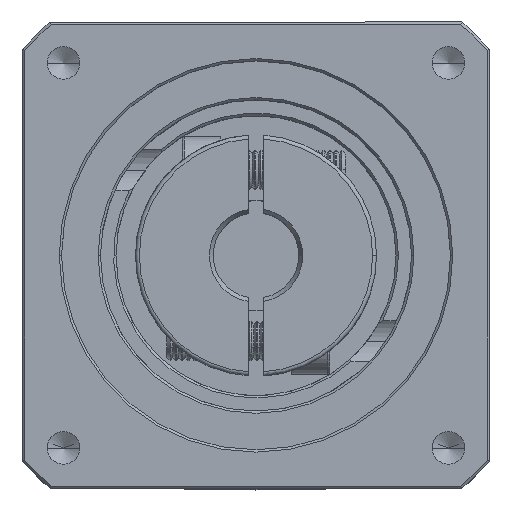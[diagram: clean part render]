
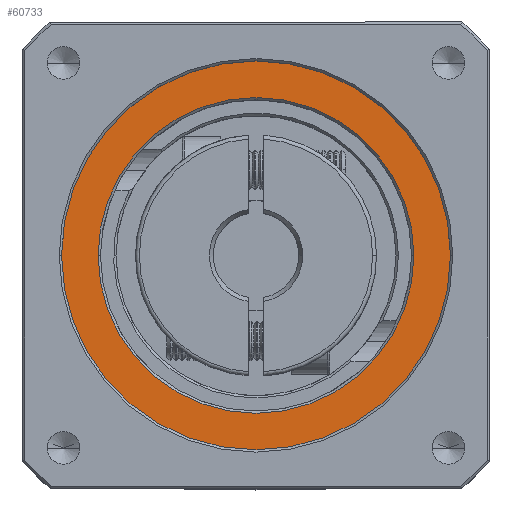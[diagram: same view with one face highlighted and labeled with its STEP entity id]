
A CAD part, top view. The second image highlights one B-rep face of the part: STEP entity #60733.
In plain terms, the highlighted planar face has unit normal (0, 0, 1).
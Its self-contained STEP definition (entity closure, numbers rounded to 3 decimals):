
#3568 = CARTESIAN_POINT ( 'NONE',  ( -70.553, 17.545, 33.731 ) ) ;
#6025 = DIRECTION ( 'NONE',  ( 1., 0., 0. ) ) ;
#9074 = ORIENTED_EDGE ( 'NONE', *, *, #82326, .T. ) ;
#11191 = DIRECTION ( 'NONE',  ( 1., 0., 0. ) ) ;
#12839 = CARTESIAN_POINT ( 'NONE',  ( -95.553, 17.545, 33.731 ) ) ;
#15806 = CARTESIAN_POINT ( 'NONE',  ( -45.553, 17.545, 33.731 ) ) ;
#18366 = CARTESIAN_POINT ( 'NONE',  ( -70.553, 17.545, 33.731 ) ) ;
#19945 = VERTEX_POINT ( 'NONE', #12839 ) ;
#21176 = DIRECTION ( 'NONE',  ( 0., 0., -1. ) ) ;
#25885 = DIRECTION ( 'NONE',  ( 1., 0., 0. ) ) ;
#26813 = AXIS2_PLACEMENT_3D ( 'NONE', #3568, #56317, #11191 ) ;
#31488 = CARTESIAN_POINT ( 'NONE',  ( -70.553, 17.545, 33.731 ) ) ;
#31945 = CIRCLE ( 'NONE', #90643, 25. ) ;
#33008 = ORIENTED_EDGE ( 'NONE', *, *, #46829, .T. ) ;
#33996 = EDGE_LOOP ( 'NONE', ( #33008, #78915 ) ) ;
#38791 = CIRCLE ( 'NONE', #26813, 25. ) ;
#39076 = DIRECTION ( 'NONE',  ( 1., 0., 0. ) ) ;
#40020 = EDGE_LOOP ( 'NONE', ( #9074, #59018 ) ) ;
#46340 = PLANE ( 'NONE',  #62634 ) ;
#46829 = EDGE_CURVE ( 'NONE', #59975, #19945, #38791, .T. ) ;
#49567 = EDGE_CURVE ( 'NONE', #19945, #59975, #31945, .T. ) ;
#51160 = DIRECTION ( 'NONE',  ( 0., 0., -1. ) ) ;
#55685 = CIRCLE ( 'NONE', #62306, 20.3 ) ;
#56312 = CARTESIAN_POINT ( 'NONE',  ( -90.853, 17.545, 33.731 ) ) ;
#56317 = DIRECTION ( 'NONE',  ( 0., 0., 1. ) ) ;
#58176 = VERTEX_POINT ( 'NONE', #68760 ) ;
#59018 = ORIENTED_EDGE ( 'NONE', *, *, #70130, .T. ) ;
#59975 = VERTEX_POINT ( 'NONE', #15806 ) ;
#60733 = ADVANCED_FACE ( 'NONE', ( #63281, #83263 ), #46340, .T. ) ;
#62306 = AXIS2_PLACEMENT_3D ( 'NONE', #66251, #21176, #73797 ) ;
#62634 = AXIS2_PLACEMENT_3D ( 'NONE', #31488, #84130, #39076 ) ;
#63281 = FACE_BOUND ( 'NONE', #40020, .T. ) ;
#64806 = CIRCLE ( 'NONE', #67898, 20.3 ) ;
#66251 = CARTESIAN_POINT ( 'NONE',  ( -70.553, 17.545, 33.731 ) ) ;
#66275 = VERTEX_POINT ( 'NONE', #56312 ) ;
#67898 = AXIS2_PLACEMENT_3D ( 'NONE', #96006, #51160, #6025 ) ;
#68760 = CARTESIAN_POINT ( 'NONE',  ( -50.253, 17.545, 33.731 ) ) ;
#70130 = EDGE_CURVE ( 'NONE', #66275, #58176, #64806, .T. ) ;
#70983 = DIRECTION ( 'NONE',  ( 0., 0., 1. ) ) ;
#73797 = DIRECTION ( 'NONE',  ( 1., 0., 0. ) ) ;
#78915 = ORIENTED_EDGE ( 'NONE', *, *, #49567, .T. ) ;
#82326 = EDGE_CURVE ( 'NONE', #58176, #66275, #55685, .T. ) ;
#83263 = FACE_OUTER_BOUND ( 'NONE', #33996, .T. ) ;
#84130 = DIRECTION ( 'NONE',  ( 0., 0., 1. ) ) ;
#90643 = AXIS2_PLACEMENT_3D ( 'NONE', #18366, #70983, #25885 ) ;
#96006 = CARTESIAN_POINT ( 'NONE',  ( -70.553, 17.545, 33.731 ) ) ;
